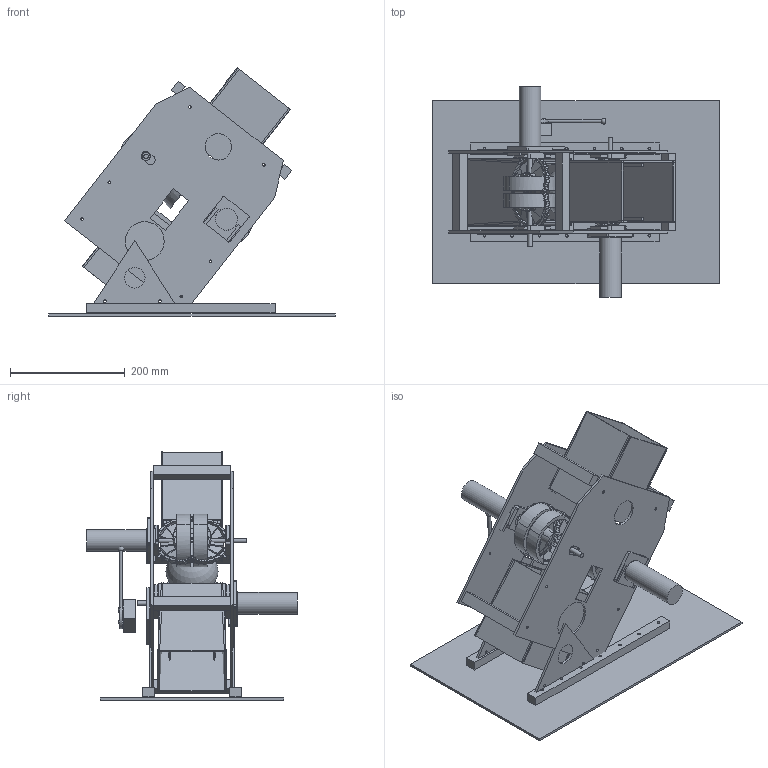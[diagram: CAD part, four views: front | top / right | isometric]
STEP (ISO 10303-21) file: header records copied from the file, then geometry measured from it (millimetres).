
FILE_DESCRIPTION(('Open CASCADE Model'),'2;1');
FILE_NAME('Open CASCADE Shape Model','2026-09-20T18:16:11',('Author'),( 'Open CASCADE'),'Open CASCADE STEP processor 7.8','Open CASCADE 7.8' ,'Unknown');
FILE_SCHEMA(('AUTOMOTIVE_DESIGN { 1 0 10303 214 1 1 1 1 }'));
Length unit declared in the file: millimetre
Products named in the file (58): biobuzz_launcher_nectar; 00_chassis_xy_reference; base_rail_-1; angle_gusset_-1; base_rail_+1; angle_gusset_+1; main_side_plate_-1; main_side_plate_+1; crossmember_-162_-118; crossmember_-162_118; crossmember_128_-118; crossmember_128_118; slide_rail_-1_-1; carriage_-1_-1; slide_rail_-1_+1; carriage_-1_+1; slide_rail_+1_-1; carriage_+1_-1; slide_rail_+1_+1; carriage_+1_+1; shaft_upper; gecko_upper_1; gecko_upper_2; bearing_collar_upper_-1; bearing_collar_upper_+1; motor_mount_upper; motor_envelope_upper; shaft_lower; gecko_lower_1; gecko_lower_2; bearing_collar_lower_-1; bearing_collar_lower_+1; motor_mount_lower; motor_envelope_lower; servo_bracket; servo_envelope; servo_double_horn; link_rod_upper; link_ball_upper_servo; link_ball_upper_carriage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
Assembly tree (57 placements, depth 2):
  biobuzz_launcher_nectar
    00_chassis_xy_reference
    base_rail_-1
    angle_gusset_-1
    base_rail_+1
    angle_gusset_+1
    main_side_plate_-1
    main_side_plate_+1
    crossmember_-162_-118
    crossmember_-162_118
    crossmember_128_-118
    crossmember_128_118
    slide_rail_-1_-1
    carriage_-1_-1
    slide_rail_-1_+1
    carriage_-1_+1
    slide_rail_+1_-1
    carriage_+1_-1
    slide_rail_+1_+1
    carriage_+1_+1
    shaft_upper
    gecko_upper_1
    gecko_upper_2
    bearing_collar_upper_-1
    bearing_collar_upper_+1
    motor_mount_upper
    motor_envelope_upper
    shaft_lower
    gecko_lower_1
    gecko_lower_2
    bearing_collar_lower_-1
    bearing_collar_lower_+1
    motor_mount_lower
    motor_envelope_lower
    servo_bracket
    servo_envelope
    servo_double_horn
    link_rod_upper
    link_ball_upper_servo
    link_ball_upper_carriage
    link_rod_lower
    link_ball_lower_servo
    link_ball_lower_carriage
    input_sidewall_-1
    input_sidewall_+1
    input_floor
    input_roof
    centering_leaf_-1
    centering_leaf_+1
    output_floor
    output_roof
    output_sidewall_-1
    output_sidewall_+1
    wear_strip_-50_-47
    wear_strip_-50_47
    wear_strip_50_-47
    wear_strip_50_47
    nectar_reference_ball
Bounding box: 500 x 368 x 433.69 mm (x, y, z)
Volume: 3120213.5 mm3; surface area: 1374784.4 mm2
Topology: 57 solids, 57 shells, 1550 faces, 4459 edges, 2970 vertices
Faces by surface type: plane 1399, cylinder 146, sphere 5
Full cylindrical faces by diameter (mm): 4.4 x12, 4.6 x30, 6 x3, 8 x2, 14.2 x12, 22 x4, 36 x2, 38 x2, 38.4 x2, 44 x1, 46 x2, 68 x2
Entity records: 111045 total; most frequent: CARTESIAN_POINT 19844, DIRECTION 16828, LINE 11903, VECTOR 11903, ORIENTED_EDGE 8908, PCURVE 8908, DEFINITIONAL_REPRESENTATION 8908, EDGE_CURVE 4454
